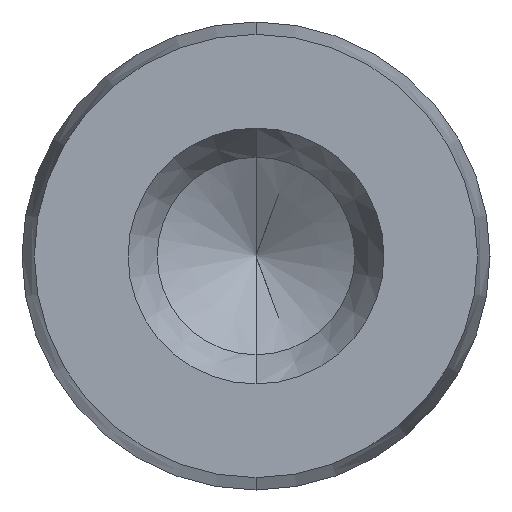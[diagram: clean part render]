
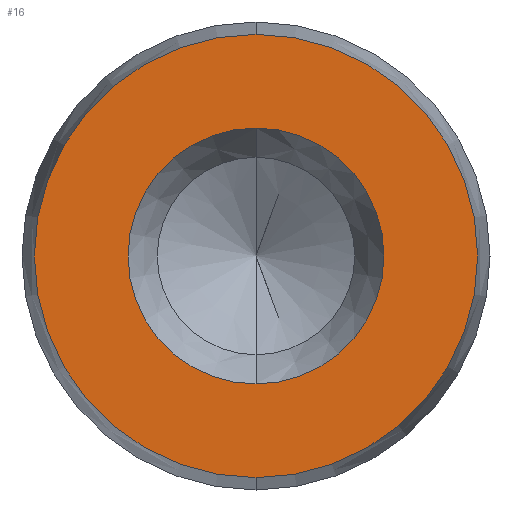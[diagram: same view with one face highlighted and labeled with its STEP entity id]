
A CAD part, front view. The second image highlights one B-rep face of the part: STEP entity #16.
In plain terms, the highlighted planar face has unit normal (0, -1, 0).
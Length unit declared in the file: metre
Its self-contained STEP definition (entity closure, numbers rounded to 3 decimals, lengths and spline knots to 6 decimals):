
#16 = ADVANCED_FACE ( 'NONE', ( #459, #523 ), #473, .T. ) ;
#35 = EDGE_CURVE ( 'NONE', #146, #172, #275, .T. ) ;
#40 = EDGE_CURVE ( 'NONE', #149, #168, #266, .T. ) ;
#64 = AXIS2_PLACEMENT_3D ( 'NONE', #430, #569, #395 ) ;
#90 = EDGE_CURVE ( 'NONE', #168, #149, #316, .T. ) ;
#96 = EDGE_CURVE ( 'NONE', #172, #146, #306, .T. ) ;
#136 = EDGE_LOOP ( 'NONE', ( #416, #190 ) ) ;
#146 = VERTEX_POINT ( 'NONE', #486 ) ;
#149 = VERTEX_POINT ( 'NONE', #418 ) ;
#168 = VERTEX_POINT ( 'NONE', #367 ) ;
#172 = VERTEX_POINT ( 'NONE', #438 ) ;
#175 = EDGE_LOOP ( 'NONE', ( #470, #207 ) ) ;
#190 = ORIENTED_EDGE ( 'NONE', *, *, #40, .F. ) ;
#207 = ORIENTED_EDGE ( 'NONE', *, *, #35, .T. ) ;
#266 = CIRCLE ( 'NONE', #297, 0.004375 ) ;
#267 = AXIS2_PLACEMENT_3D ( 'NONE', #368, #499, #489 ) ;
#275 = CIRCLE ( 'NONE', #267, 0.007578 ) ;
#287 = AXIS2_PLACEMENT_3D ( 'NONE', #505, #584, #514 ) ;
#297 = AXIS2_PLACEMENT_3D ( 'NONE', #388, #532, #435 ) ;
#303 = AXIS2_PLACEMENT_3D ( 'NONE', #520, #373, #521 ) ;
#306 = CIRCLE ( 'NONE', #287, 0.007578 ) ;
#316 = CIRCLE ( 'NONE', #303, 0.004375 ) ;
#367 = CARTESIAN_POINT ( 'NONE',  ( 0., 0., -0.004375 ) ) ;
#368 = CARTESIAN_POINT ( 'NONE',  ( 0., 0., 0. ) ) ;
#373 = DIRECTION ( 'NONE',  ( 0., -1., 0. ) ) ;
#388 = CARTESIAN_POINT ( 'NONE',  ( 0., 0., 0. ) ) ;
#395 = DIRECTION ( 'NONE',  ( 0., 0., -1. ) ) ;
#416 = ORIENTED_EDGE ( 'NONE', *, *, #90, .F. ) ;
#418 = CARTESIAN_POINT ( 'NONE',  ( 0., 0., 0.004375 ) ) ;
#430 = CARTESIAN_POINT ( 'NONE',  ( 0.004375, 0., 0. ) ) ;
#435 = DIRECTION ( 'NONE',  ( 0., 0., -1. ) ) ;
#438 = CARTESIAN_POINT ( 'NONE',  ( 0., 0., 0.007578 ) ) ;
#459 = FACE_OUTER_BOUND ( 'NONE', #175, .T. ) ;
#470 = ORIENTED_EDGE ( 'NONE', *, *, #96, .T. ) ;
#473 = PLANE ( 'NONE',  #64 ) ;
#486 = CARTESIAN_POINT ( 'NONE',  ( 0., 0., -0.007578 ) ) ;
#489 = DIRECTION ( 'NONE',  ( 0., 0., -1. ) ) ;
#499 = DIRECTION ( 'NONE',  ( 0., -1., 0. ) ) ;
#505 = CARTESIAN_POINT ( 'NONE',  ( 0., 0., 0. ) ) ;
#514 = DIRECTION ( 'NONE',  ( 0., 0., -1. ) ) ;
#520 = CARTESIAN_POINT ( 'NONE',  ( 0., 0., 0. ) ) ;
#521 = DIRECTION ( 'NONE',  ( 0., 0., -1. ) ) ;
#523 = FACE_BOUND ( 'NONE', #136, .T. ) ;
#532 = DIRECTION ( 'NONE',  ( 0., -1., 0. ) ) ;
#569 = DIRECTION ( 'NONE',  ( 0., -1., 0. ) ) ;
#584 = DIRECTION ( 'NONE',  ( 0., -1., 0. ) ) ;
